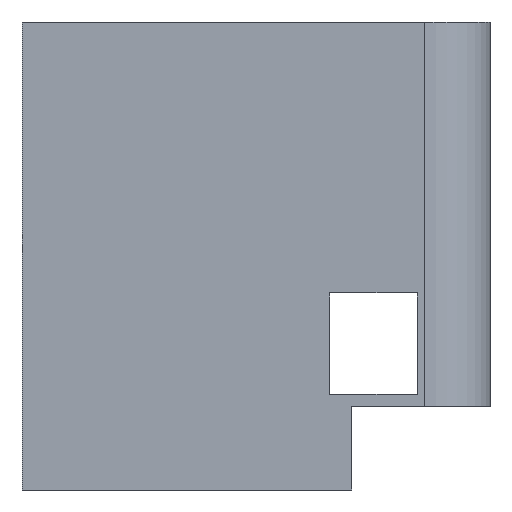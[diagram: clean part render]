
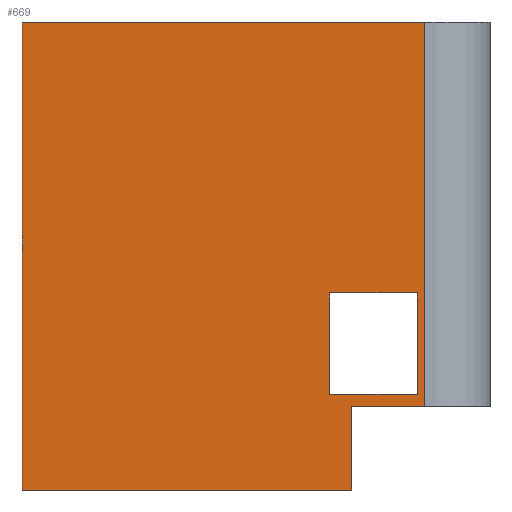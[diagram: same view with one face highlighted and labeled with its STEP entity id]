
A CAD part, left-side view. The second image highlights one B-rep face of the part: STEP entity #669.
In plain terms, the highlighted planar face has unit normal (-1, 0, 0).
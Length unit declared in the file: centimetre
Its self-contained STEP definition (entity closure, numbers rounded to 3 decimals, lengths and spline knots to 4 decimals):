
#48 = LINE ( 'NONE', #953, #247 ) ;
#49 = EDGE_LOOP ( 'NONE', ( #1085, #919, #828, #712 ) ) ;
#51 = CARTESIAN_POINT ( 'NONE',  ( 0., 295.3078, 0. ) ) ;
#54 = DIRECTION ( 'NONE',  ( 0., 0., -1. ) ) ;
#75 = CARTESIAN_POINT ( 'NONE',  ( 0., 155.4292, 204.1345 ) ) ;
#76 = DIRECTION ( 'NONE',  ( 1., 0., 0. ) ) ;
#107 = DIRECTION ( 'NONE',  ( 0., -1., 0. ) ) ;
#108 = ORIENTED_EDGE ( 'NONE', *, *, #358, .T. ) ;
#116 = CARTESIAN_POINT ( 'NONE',  ( 0., 0., 178.9957 ) ) ;
#129 = VERTEX_POINT ( 'NONE', #1009 ) ;
#131 = DIRECTION ( 'NONE',  ( 0., -1., 0. ) ) ;
#138 = VERTEX_POINT ( 'NONE', #368 ) ;
#144 = EDGE_CURVE ( 'NONE', #888, #421, #733, .T. ) ;
#153 = LINE ( 'NONE', #230, #604 ) ;
#160 = DIRECTION ( 'NONE',  ( 0., 0., 1. ) ) ;
#214 = VERTEX_POINT ( 'NONE', #312 ) ;
#230 = CARTESIAN_POINT ( 'NONE',  ( 0., 139.4529, 1000. ) ) ;
#247 = VECTOR ( 'NONE', #1134, 100. ) ;
#256 = LINE ( 'NONE', #610, #372 ) ;
#277 = EDGE_CURVE ( 'NONE', #603, #382, #1020, .T. ) ;
#286 = VECTOR ( 'NONE', #107, 100. ) ;
#287 = VECTOR ( 'NONE', #160, 100. ) ;
#298 = ORIENTED_EDGE ( 'NONE', *, *, #961, .F. ) ;
#312 = CARTESIAN_POINT ( 'NONE',  ( 0., 139.4529, 1000. ) ) ;
#324 = CARTESIAN_POINT ( 'NONE',  ( 0., 295.3078, 0. ) ) ;
#353 = DIRECTION ( 'NONE',  ( 0., 1., 0. ) ) ;
#358 = EDGE_CURVE ( 'NONE', #382, #734, #524, .T. ) ;
#368 = CARTESIAN_POINT ( 'NONE',  ( 0., 342.5047, 420.9774 ) ) ;
#372 = VECTOR ( 'NONE', #975, 100. ) ;
#374 = CARTESIAN_POINT ( 'NONE',  ( 0., 139.4529, 178.9957 ) ) ;
#382 = VERTEX_POINT ( 'NONE', #51 ) ;
#390 = EDGE_CURVE ( 'NONE', #934, #214, #153, .T. ) ;
#402 = VERTEX_POINT ( 'NONE', #781 ) ;
#420 = DIRECTION ( 'NONE',  ( 0., 0., -1. ) ) ;
#421 = VERTEX_POINT ( 'NONE', #1118 ) ;
#449 = VECTOR ( 'NONE', #131, 100. ) ;
#452 = ORIENTED_EDGE ( 'NONE', *, *, #969, .T. ) ;
#455 = CARTESIAN_POINT ( 'NONE',  ( 0., 155.4292, 204.1345 ) ) ;
#486 = CARTESIAN_POINT ( 'NONE',  ( 0., 1000., 0. ) ) ;
#495 = EDGE_LOOP ( 'NONE', ( #108, #452, #728, #298, #1015, #1035 ) ) ;
#506 = FACE_OUTER_BOUND ( 'NONE', #495, .T. ) ;
#515 = AXIS2_PLACEMENT_3D ( 'NONE', #695, #76, #420 ) ;
#522 = EDGE_CURVE ( 'NONE', #129, #603, #815, .T. ) ;
#524 = LINE ( 'NONE', #324, #287 ) ;
#569 = DIRECTION ( 'NONE',  ( 0., -1., 0. ) ) ;
#603 = VERTEX_POINT ( 'NONE', #989 ) ;
#604 = VECTOR ( 'NONE', #1032, 100. ) ;
#608 = PLANE ( 'NONE',  #515 ) ;
#610 = CARTESIAN_POINT ( 'NONE',  ( 0., 155.4292, 420.9774 ) ) ;
#651 = LINE ( 'NONE', #761, #914 ) ;
#669 = ADVANCED_FACE ( 'NONE', ( #973, #506 ), #608, .F. ) ;
#695 = CARTESIAN_POINT ( 'NONE',  ( 0., 1000., 1000. ) ) ;
#712 = ORIENTED_EDGE ( 'NONE', *, *, #1081, .T. ) ;
#728 = ORIENTED_EDGE ( 'NONE', *, *, #390, .T. ) ;
#731 = DIRECTION ( 'NONE',  ( 0., 0., -1. ) ) ;
#733 = LINE ( 'NONE', #455, #867 ) ;
#734 = VERTEX_POINT ( 'NONE', #877 ) ;
#749 = EDGE_CURVE ( 'NONE', #421, #138, #48, .T. ) ;
#761 = CARTESIAN_POINT ( 'NONE',  ( 0., 1000., 1000. ) ) ;
#781 = CARTESIAN_POINT ( 'NONE',  ( 0., 155.4292, 420.9774 ) ) ;
#807 = CARTESIAN_POINT ( 'NONE',  ( 0., 155.4292, 204.1345 ) ) ;
#815 = LINE ( 'NONE', #1147, #927 ) ;
#828 = ORIENTED_EDGE ( 'NONE', *, *, #749, .T. ) ;
#852 = VECTOR ( 'NONE', #54, 100. ) ;
#867 = VECTOR ( 'NONE', #353, 100. ) ;
#877 = CARTESIAN_POINT ( 'NONE',  ( 0., 295.3078, 178.9957 ) ) ;
#888 = VERTEX_POINT ( 'NONE', #75 ) ;
#914 = VECTOR ( 'NONE', #569, 100. ) ;
#919 = ORIENTED_EDGE ( 'NONE', *, *, #144, .T. ) ;
#927 = VECTOR ( 'NONE', #731, 100. ) ;
#934 = VERTEX_POINT ( 'NONE', #374 ) ;
#953 = CARTESIAN_POINT ( 'NONE',  ( 0., 342.5047, 204.1345 ) ) ;
#961 = EDGE_CURVE ( 'NONE', #129, #214, #651, .T. ) ;
#969 = EDGE_CURVE ( 'NONE', #734, #934, #1113, .T. ) ;
#973 = FACE_BOUND ( 'NONE', #49, .T. ) ;
#975 = DIRECTION ( 'NONE',  ( 0., -1., 0. ) ) ;
#989 = CARTESIAN_POINT ( 'NONE',  ( 0., 1000., 0. ) ) ;
#1009 = CARTESIAN_POINT ( 'NONE',  ( 0., 1000., 1000. ) ) ;
#1015 = ORIENTED_EDGE ( 'NONE', *, *, #522, .T. ) ;
#1020 = LINE ( 'NONE', #486, #286 ) ;
#1032 = DIRECTION ( 'NONE',  ( 0., 0., 1. ) ) ;
#1035 = ORIENTED_EDGE ( 'NONE', *, *, #277, .T. ) ;
#1053 = EDGE_CURVE ( 'NONE', #402, #888, #1136, .T. ) ;
#1081 = EDGE_CURVE ( 'NONE', #138, #402, #256, .T. ) ;
#1085 = ORIENTED_EDGE ( 'NONE', *, *, #1053, .T. ) ;
#1113 = LINE ( 'NONE', #116, #449 ) ;
#1118 = CARTESIAN_POINT ( 'NONE',  ( 0., 342.5047, 204.1345 ) ) ;
#1134 = DIRECTION ( 'NONE',  ( 0., 0., 1. ) ) ;
#1136 = LINE ( 'NONE', #807, #852 ) ;
#1147 = CARTESIAN_POINT ( 'NONE',  ( 0., 1000., 1000. ) ) ;
